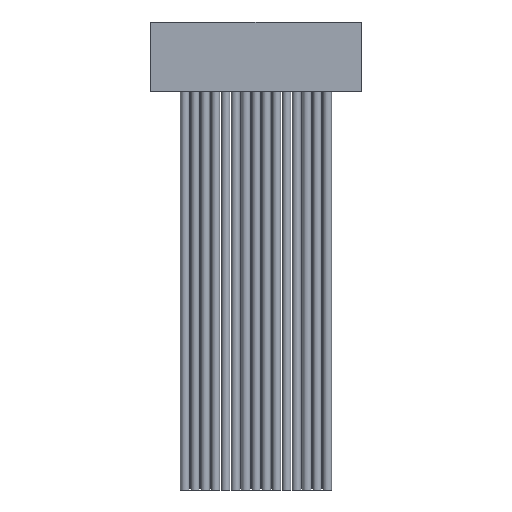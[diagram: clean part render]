
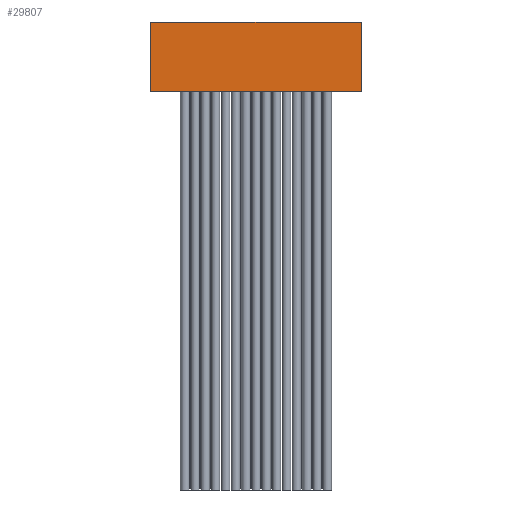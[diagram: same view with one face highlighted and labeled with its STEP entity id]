
A CAD part, front view. The second image highlights one B-rep face of the part: STEP entity #29807.
In plain terms, the highlighted planar face has unit normal (0, -1, 0).
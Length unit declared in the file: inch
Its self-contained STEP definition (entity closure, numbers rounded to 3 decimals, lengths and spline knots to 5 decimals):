
#98 = LINE ( 'NONE', #20178, #21630 ) ;
#189 = CARTESIAN_POINT ( 'NONE',  ( 0.5175, -0.0625, 0. ) ) ;
#540 = DIRECTION ( 'NONE',  ( 0., 0., -1. ) ) ;
#1442 = ORIENTED_EDGE ( 'NONE', *, *, #26118, .T. ) ;
#1904 = CARTESIAN_POINT ( 'NONE',  ( 0.5175, -0.0625, -0.34 ) ) ;
#2761 = AXIS2_PLACEMENT_3D ( 'NONE', #31531, #8822, #540 ) ;
#4084 = VERTEX_POINT ( 'NONE', #1904 ) ;
#5669 = VERTEX_POINT ( 'NONE', #189 ) ;
#6042 = ORIENTED_EDGE ( 'NONE', *, *, #27927, .F. ) ;
#7325 = EDGE_LOOP ( 'NONE', ( #6042, #10094, #1442, #16315 ) ) ;
#8822 = DIRECTION ( 'NONE',  ( 0., -1., 0. ) ) ;
#9437 = DIRECTION ( 'NONE',  ( 1., 0., 0. ) ) ;
#10052 = VECTOR ( 'NONE', #9437, 39.37008 ) ;
#10094 = ORIENTED_EDGE ( 'NONE', *, *, #20126, .F. ) ;
#13338 = CARTESIAN_POINT ( 'NONE',  ( -0.5175, -0.0625, 0. ) ) ;
#14726 = CARTESIAN_POINT ( 'NONE',  ( -0.5175, -0.0625, -0.34 ) ) ;
#14891 = FACE_OUTER_BOUND ( 'NONE', #7325, .T. ) ;
#16315 = ORIENTED_EDGE ( 'NONE', *, *, #31586, .T. ) ;
#18994 = VECTOR ( 'NONE', #34422, 39.37008 ) ;
#20126 = EDGE_CURVE ( 'NONE', #34494, #22225, #23492, .T. ) ;
#20132 = LINE ( 'NONE', #34730, #10052 ) ;
#20178 = CARTESIAN_POINT ( 'NONE',  ( 0.5175, -0.0625, -0.34 ) ) ;
#21630 = VECTOR ( 'NONE', #25886, 39.37008 ) ;
#22225 = VERTEX_POINT ( 'NONE', #13338 ) ;
#23492 = LINE ( 'NONE', #28483, #18994 ) ;
#24406 = LINE ( 'NONE', #27541, #26782 ) ;
#25790 = PLANE ( 'NONE',  #2761 ) ;
#25886 = DIRECTION ( 'NONE',  ( 0., 0., 1. ) ) ;
#26118 = EDGE_CURVE ( 'NONE', #34494, #4084, #20132, .T. ) ;
#26782 = VECTOR ( 'NONE', #27712, 39.37008 ) ;
#27541 = CARTESIAN_POINT ( 'NONE',  ( -0.5175, -0.0625, 0. ) ) ;
#27712 = DIRECTION ( 'NONE',  ( 1., 0., 0. ) ) ;
#27927 = EDGE_CURVE ( 'NONE', #22225, #5669, #24406, .T. ) ;
#28483 = CARTESIAN_POINT ( 'NONE',  ( -0.5175, -0.0625, -0.34 ) ) ;
#29807 = ADVANCED_FACE ( 'NONE', ( #14891 ), #25790, .T. ) ;
#31531 = CARTESIAN_POINT ( 'NONE',  ( -0.5175, -0.0625, -0.34 ) ) ;
#31586 = EDGE_CURVE ( 'NONE', #4084, #5669, #98, .T. ) ;
#34422 = DIRECTION ( 'NONE',  ( 0., 0., 1. ) ) ;
#34494 = VERTEX_POINT ( 'NONE', #14726 ) ;
#34730 = CARTESIAN_POINT ( 'NONE',  ( -0.5175, -0.0625, -0.34 ) ) ;
